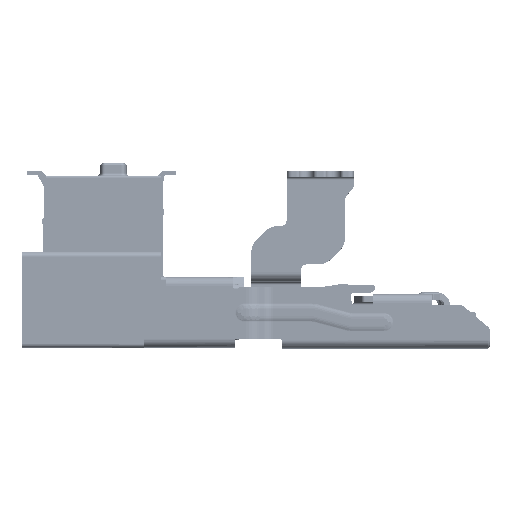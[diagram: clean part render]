
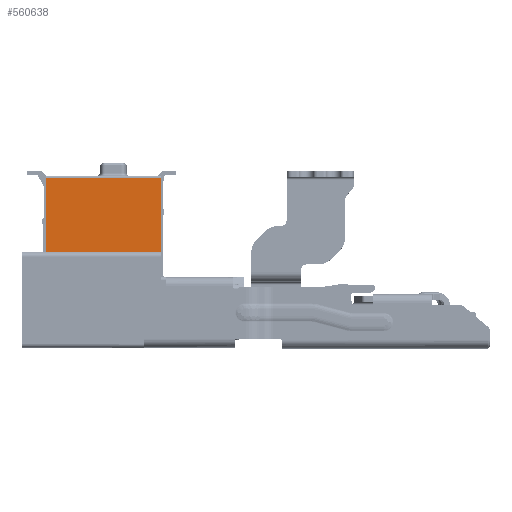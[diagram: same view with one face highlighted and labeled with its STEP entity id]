
A CAD part, front view. The second image highlights one B-rep face of the part: STEP entity #560638.
In plain terms, the highlighted planar face has unit normal (0, -1, 0).
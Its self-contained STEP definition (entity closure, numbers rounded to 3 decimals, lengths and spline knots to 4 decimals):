
#1705=DIRECTION('',(0.,0.,1.));
#1706=VECTOR('',#1705,3.85);
#1707=CARTESIAN_POINT('',(-2.3,-36.,3.125));
#1708=LINE('',#1707,#1706);
#117229=DIRECTION('',(0.,0.,-1.));
#117230=VECTOR('',#117229,3.85);
#117231=CARTESIAN_POINT('',(3.7,-36.,6.975));
#117232=LINE('',#117231,#117230);
#157164=DIRECTION('',(1.,0.,0.));
#157165=VECTOR('',#157164,6.);
#157166=CARTESIAN_POINT('',(-2.3,-36.,6.975));
#157167=LINE('',#157166,#157165);
#157168=DIRECTION('',(1.,0.,0.));
#157169=VECTOR('',#157168,6.);
#157170=CARTESIAN_POINT('',(-2.3,-36.,3.125));
#157171=LINE('',#157170,#157169);
#234921=CARTESIAN_POINT('',(3.7,-36.,3.125));
#234922=VERTEX_POINT('',#234921);
#234958=CARTESIAN_POINT('',(3.7,-36.,6.975));
#234959=VERTEX_POINT('',#234958);
#235014=CARTESIAN_POINT('',(-2.3,-36.,3.125));
#235015=VERTEX_POINT('',#235014);
#235087=CARTESIAN_POINT('',(-2.3,-36.,6.975));
#235088=VERTEX_POINT('',#235087);
#560626=CARTESIAN_POINT('',(3.7,-36.,6.925));
#560627=DIRECTION('',(0.,1.,0.));
#560628=DIRECTION('',(-1.,0.,0.));
#560629=AXIS2_PLACEMENT_3D('',#560626,#560627,#560628);
#560630=PLANE('',#560629);
#560632=ORIENTED_EDGE('',*,*,#560631,.F.);
#560633=ORIENTED_EDGE('',*,*,#310054,.T.);
#560634=ORIENTED_EDGE('',*,*,#560621,.T.);
#560635=ORIENTED_EDGE('',*,*,#493555,.T.);
#560636=EDGE_LOOP('',(#560632,#560633,#560634,#560635));
#560637=FACE_OUTER_BOUND('',#560636,.F.);
#310054=EDGE_CURVE('',#235015,#235088,#1708,.T.);
#493555=EDGE_CURVE('',#234959,#234922,#117232,.T.);
#560621=EDGE_CURVE('',#235088,#234959,#157167,.T.);
#560631=EDGE_CURVE('',#235015,#234922,#157171,.T.);
#560638=ADVANCED_FACE('',(#560637),#560630,.F.);
